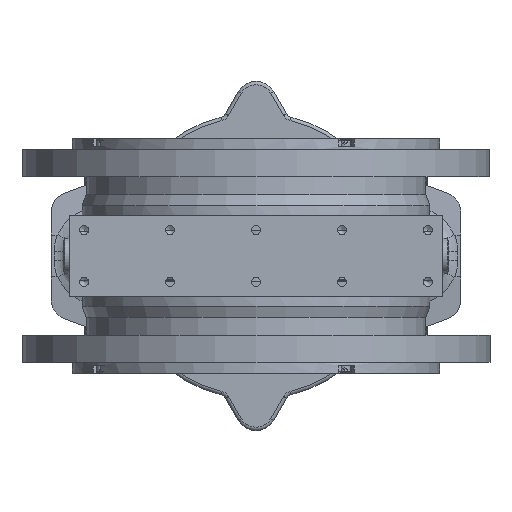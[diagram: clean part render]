
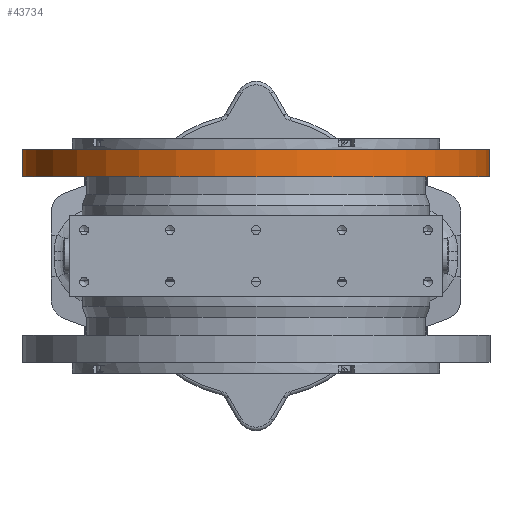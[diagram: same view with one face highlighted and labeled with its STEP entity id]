
A CAD part, front view. The second image highlights one B-rep face of the part: STEP entity #43734.
In plain terms, the highlighted cylindrical face has radius 171.5 mm (diameter 343 mm), a full revolution.
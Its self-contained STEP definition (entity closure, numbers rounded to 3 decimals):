
#4148=LINE('',#71714,#6410);
#6410=VECTOR('',#54217,171.5);
#8304=CYLINDRICAL_SURFACE('',#47006,171.5);
#9284=FACE_OUTER_BOUND('',#12127,.T.);
#12127=EDGE_LOOP('',(#31319,#31320,#31321,#31322,#31323));
#14843=CIRCLE('',#46285,171.5);
#15264=CIRCLE('',#47007,171.5);
#15265=CIRCLE('',#47008,171.5);
#18046=VERTEX_POINT('',#66426);
#18734=VERTEX_POINT('',#71711);
#18735=VERTEX_POINT('',#71712);
#22451=EDGE_CURVE('',#18046,#18046,#14843,.T.);
#23430=EDGE_CURVE('',#18734,#18735,#15264,.T.);
#23431=EDGE_CURVE('',#18735,#18046,#4148,.T.);
#23432=EDGE_CURVE('',#18735,#18734,#15265,.T.);
#31319=ORIENTED_EDGE('',*,*,#23430,.T.);
#31320=ORIENTED_EDGE('',*,*,#23431,.T.);
#31321=ORIENTED_EDGE('',*,*,#22451,.T.);
#31322=ORIENTED_EDGE('',*,*,#23431,.F.);
#31323=ORIENTED_EDGE('',*,*,#23432,.T.);
#43734=ADVANCED_FACE('',(#9284),#8304,.T.);
#46285=AXIS2_PLACEMENT_3D('',#66427,#52377,#52378);
#47006=AXIS2_PLACEMENT_3D('',#71710,#54213,#54214);
#47007=AXIS2_PLACEMENT_3D('',#71713,#54215,#54216);
#47008=AXIS2_PLACEMENT_3D('',#71715,#54218,#54219);
#52377=DIRECTION('center_axis',(0.,0.,
-1.));
#52378=DIRECTION('ref_axis',(0.,1.,0.));
#54213=DIRECTION('center_axis',(0.,0.,
1.));
#54214=DIRECTION('ref_axis',(0.,1.,0.));
#54215=DIRECTION('center_axis',(0.,0.,
1.));
#54216=DIRECTION('ref_axis',(0.,1.,0.));
#54217=DIRECTION('',(0.,0.,1.));
#54218=DIRECTION('center_axis',(0.,0.,
1.));
#54219=DIRECTION('ref_axis',(0.,1.,0.));
#66426=CARTESIAN_POINT('',(0.,-171.5,78.));
#66427=CARTESIAN_POINT('Origin',(0.,0.,
78.));
#71710=CARTESIAN_POINT('Origin',(0.,0.,
68.));
#71711=CARTESIAN_POINT('',(0.,171.5,58.));
#71712=CARTESIAN_POINT('',(0.,-171.5,58.));
#71713=CARTESIAN_POINT('Origin',(0.,0.,
58.));
#71714=CARTESIAN_POINT('',(0.,-171.5,68.));
#71715=CARTESIAN_POINT('Origin',(0.,0.,
58.));
